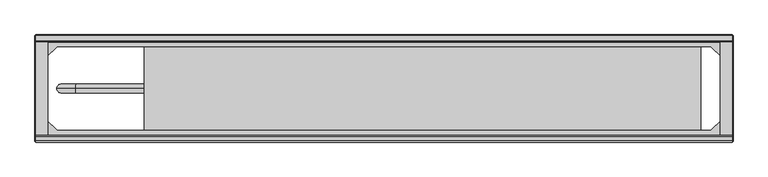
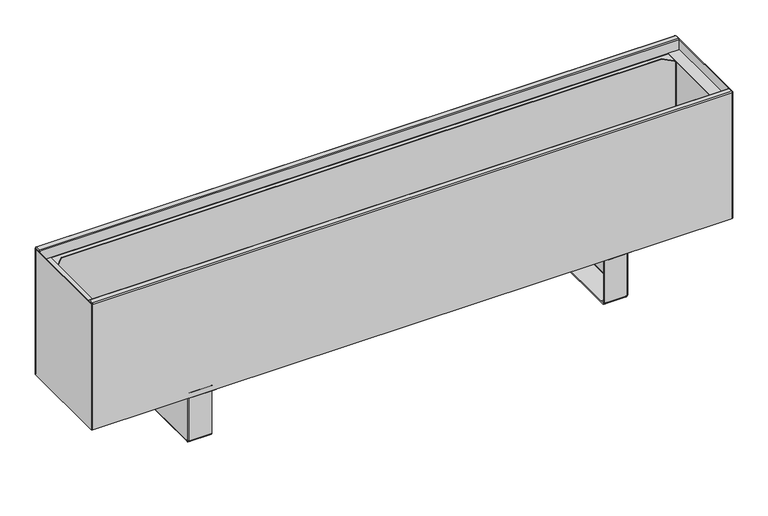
"""IFC4 building model written with IfcOpenShell, lengths in millimetres: proxy geometry, TECHNO_Конвектор напольный_Vita KPZ 185 : KPZ 185-250-2."""

from ifc_helpers import new_model, si_unit, point, frame, origin, place, context, project, spatial, polyline, circle_curve, ellipse_curve, trimmed, outline, extrude, source, transform, mapped, element, save
from ifc_brep_helpers import plane_surface, cylinder_surface, revolved_surface, advanced_brep


def mechanical_equipment_51376e17(model_context):
    return source(origin(), model_context, "Body", "SolidModel", [
        advanced_brep(
        [(409.7, -116.8, 1.5), (409.7, -114.5, 3.8), (409.7, -114.5, 4.9), (409.7, -116.0, 4.9), (409.7, -116.0, 3.8), (409.7, -116.8, 3.0), (409.7, -124.5, 3.0), (409.7, -124.5, 1.5), (409.7, -117.6, 1.5), (409.7, -114.5, 97.7), (409.7, -113.7, 98.5), (409.7, -101.0, 98.5), (409.7, -101.0, 100.0), (409.7, -113.7, 100.0), (409.7, -116.0, 97.7), (409.7, -116.0, 95.5), (409.7, -114.5, 95.5), (409.7, -270.5, 3.8), (409.7, -268.2, 1.5), (409.7, -267.4, 1.5), (409.7, -260.5, 1.5), (409.7, -260.5, 3.0), (409.7, -268.2, 3.0), (409.7, -269.0, 3.8), (409.7, -269.0, 4.9), (409.7, -270.5, 4.9), (409.7, -269.0, 97.7), (409.7, -271.3, 100.0), (409.7, -284.0, 100.0), (409.7, -284.0, 98.5), (409.7, -271.3, 98.5), (409.7, -270.5, 97.7), (409.7, -270.5, 95.5), (409.7, -269.0, 95.5), (367.0, -270.5, 97.7), (367.0, -271.3, 98.5), (367.0, -284.0, 98.5), (367.0, -284.0, 100.0), (367.0, -271.3, 100.0), (367.0, -269.0, 97.7), (367.0, -269.0, 3.8), (367.0, -268.2, 3.0), (367.0, -260.5, 3.0), (367.0, -260.5, 1.5), (367.0, -124.5, 1.5), (367.0, -124.5, 3.0), (367.0, -116.8, 3.0), (367.0, -116.0, 3.8), (367.0, -116.0, 97.7), (367.0, -113.7, 100.0), (367.0, -101.0, 100.0), (367.0, -101.0, 98.5), (367.0, -113.7, 98.5), (367.0, -114.5, 97.7), (367.0, -114.5, 3.8), (367.0, -116.8, 1.5), (367.0, -117.6, 1.5), (367.0, -117.6, 0.0), (367.0, -267.4, 0.0), (367.0, -267.4, 1.5), (367.0, -268.2, 1.5), (367.0, -270.5, 3.8), (410.5, -116.8, 95.5), (410.5, -268.2, 95.5), (412.0, -268.2, 95.5), (412.0, -116.8, 95.5), (412.0, -116.8, 4.9), (412.0, -117.6, 4.9), (410.5, -117.6, 4.9), (410.5, -116.8, 4.9), (410.5, -268.2, 4.9), (410.5, -267.4, 4.9), (412.0, -267.4, 4.9), (412.0, -268.2, 4.9), (410.5, -117.6, 2.3), (410.5, -267.4, 2.3), (411.9999999, -267.4, 2.3), (412.0, -117.6, 2.3), (409.7, -117.6, 0.0), (409.7, -267.4, 0.0)],
        [
            (0, 1, circle_curve(frame((409.7, -116.8, 3.8), z_axis=(1.0, 0.0, 0.0), x_axis=(0.0, -1.0, 0.0)), 2.3)),
            (1, 2),
            (2, 3),
            (3, 4),
            (4, 5, circle_curve(frame((409.7, -116.8, 3.8), z_axis=(-1.0, 0.0, 0.0), x_axis=(0.0, -1.0, 0.0)), 0.8)),
            (5, 6),
            (6, 7),
            (7, 8),
            (8, 0),
            (9, 10, circle_curve(frame((409.7, -113.7, 97.7), z_axis=(-1.0, 0.0, 0.0), x_axis=(0.0, -1.0, 0.0)), 0.8)),
            (10, 11),
            (11, 12),
            (12, 13),
            (13, 14, circle_curve(frame((409.7, -113.7, 97.7), z_axis=(1.0, 0.0, 0.0), x_axis=(0.0, -1.0, 0.0)), 2.3)),
            (14, 15),
            (15, 16),
            (16, 9),
            (17, 18, circle_curve(frame((409.7, -268.2, 3.8), z_axis=(1.0, 0.0, 0.0), x_axis=(0.0, -1.0, 0.0)), 2.3)),
            (18, 19),
            (19, 20),
            (20, 21),
            (21, 22),
            (22, 23, circle_curve(frame((409.7, -268.2, 3.8), z_axis=(-1.0, 0.0, 0.0), x_axis=(0.0, -1.0, 0.0)), 0.8)),
            (23, 24),
            (24, 25),
            (25, 17),
            (26, 27, circle_curve(frame((409.7, -271.3, 97.7), z_axis=(1.0, 0.0, 0.0), x_axis=(0.0, -1.0, 0.0)), 2.3)),
            (27, 28),
            (28, 29),
            (29, 30),
            (30, 31, circle_curve(frame((409.7, -271.3, 97.7), z_axis=(-1.0, 0.0, 0.0), x_axis=(0.0, -1.0, 0.0)), 0.8)),
            (31, 32),
            (32, 33),
            (33, 26),
            (34, 35, circle_curve(frame((367.0, -271.3, 97.7), z_axis=(1.0, 0.0, 0.0), x_axis=(0.0, -1.0, 0.0)), 0.8)),
            (35, 36),
            (36, 37),
            (37, 38),
            (38, 39, circle_curve(frame((367.0, -271.3, 97.7), z_axis=(-1.0, 0.0, 0.0), x_axis=(0.0, -1.0, 0.0)), 2.3)),
            (39, 40),
            (40, 41, circle_curve(frame((367.0, -268.2, 3.8), z_axis=(1.0, 0.0, 0.0), x_axis=(0.0, -1.0, 0.0)), 0.8)),
            (41, 42),
            (42, 43),
            (43, 44),
            (44, 45),
            (45, 46),
            (46, 47, circle_curve(frame((367.0, -116.8, 3.8), z_axis=(1.0, 0.0, 0.0), x_axis=(0.0, -1.0, 0.0)), 0.8)),
            (47, 48),
            (48, 49, circle_curve(frame((367.0, -113.7, 97.7), z_axis=(-1.0, 0.0, 0.0), x_axis=(0.0, -1.0, 0.0)), 2.3)),
            (49, 50),
            (50, 51),
            (51, 52),
            (52, 53, circle_curve(frame((367.0, -113.7, 97.7), z_axis=(1.0, 0.0, 0.0), x_axis=(0.0, -1.0, 0.0)), 0.8)),
            (53, 54),
            (54, 55, circle_curve(frame((367.0, -116.8, 3.8), z_axis=(-1.0, 0.0, 0.0), x_axis=(0.0, -1.0, 0.0)), 2.3)),
            (55, 56),
            (56, 57),
            (57, 58),
            (58, 59),
            (59, 60),
            (60, 61, circle_curve(frame((367.0, -268.2, 3.8), z_axis=(-1.0, 0.0, 0.0), x_axis=(0.0, -1.0, 0.0)), 2.3)),
            (61, 34),
            (30, 35),
            (34, 31),
            (29, 36),
            (28, 37),
            (27, 38),
            (26, 39),
            (33, 24),
            (23, 40),
            (22, 41),
            (5, 46),
            (45, 6),
            (4, 47),
            (3, 15),
            (14, 48),
            (13, 49),
            (12, 50),
            (11, 51),
            (10, 52),
            (9, 53),
            (16, 2),
            (1, 54),
            (0, 55),
            (8, 56),
            (17, 61),
            (60, 18),
            (25, 32),
            (21, 42),
            (20, 43),
            (59, 19),
            (44, 7),
            (15, 62, circle_curve(frame((409.7, -116.8, 95.5), z_axis=(0.0, 0.0, -1.0), x_axis=(-1.0, 0.0, 0.0)), 0.8)),
            (62, 63),
            (63, 33, circle_curve(frame((409.7, -268.2, 95.5), z_axis=(0.0, 0.0, -1.0), x_axis=(-1.0, 0.0, 0.0)), 0.8)),
            (32, 64, circle_curve(frame((409.7, -268.2, 95.5), z_axis=(0.0, 0.0, 1.0), x_axis=(-1.0, 0.0, 0.0)), 2.3)),
            (64, 65),
            (65, 16, circle_curve(frame((409.7, -116.8, 95.5), z_axis=(0.0, 0.0, 1.0), x_axis=(-1.0, 0.0, 0.0)), 2.3)),
            (2, 66, circle_curve(frame((409.7, -116.8, 4.9), z_axis=(0.0, 0.0, -1.0), x_axis=(-1.0, 0.0, 0.0)), 2.3)),
            (66, 67),
            (67, 68),
            (68, 69),
            (69, 3, circle_curve(frame((409.7, -116.8, 4.9), z_axis=(0.0, 0.0, 1.0), x_axis=(-1.0, 0.0, 0.0)), 0.8)),
            (24, 70, circle_curve(frame((409.7, -268.2, 4.9), z_axis=(0.0, 0.0, 1.0), x_axis=(-1.0, 0.0, 0.0)), 0.8)),
            (70, 71),
            (71, 72),
            (72, 73),
            (73, 25, circle_curve(frame((409.7, -268.2, 4.9), z_axis=(0.0, 0.0, -1.0), x_axis=(-1.0, 0.0, 0.0)), 2.3)),
            (69, 62),
            (68, 74),
            (74, 75),
            (75, 71),
            (70, 63),
            (64, 73),
            (72, 76),
            (76, 77),
            (77, 67),
            (66, 65),
            (8, 74, circle_curve(frame((409.7, -117.6, 2.3), z_axis=(0.0, -1.0, 0.0), x_axis=(-1.0, 0.0, 0.0)), 0.8)),
            (77, 78, circle_curve(frame((409.7, -117.6, 2.3), z_axis=(0.0, 1.0, 0.0), x_axis=(-1.0, 0.0, 0.0)), 2.3)),
            (78, 57),
            (58, 79),
            (79, 76, circle_curve(frame((409.7, -267.4, 2.3), z_axis=(0.0, -1.0, 0.0), x_axis=(-1.0, 0.0, 0.0)), 2.3)),
            (75, 19, circle_curve(frame((409.7, -267.4, 2.3), z_axis=(0.0, 1.0, 0.0), x_axis=(-1.0, 0.0, 0.0)), 0.8)),
            (20, 7),
            (79, 78),
        ],
        [
            plane_surface(frame((409.7, -272.1, 97.7), z_axis=(1.0, 0.0, 0.0), x_axis=(0.0, 0.0, 1.0))),
            plane_surface(frame((367.0, -272.1, 97.7), z_axis=(-1.0, 0.0, 0.0), x_axis=(0.0, 0.0, -1.0))),
            revolved_surface(polyline([(409.7, -272.1, 97.7), (367.0, -272.1, 97.7)]), (409.7, -271.3, 97.7), (1.0, 0.0, 0.0)),
            plane_surface(frame((367.0, -271.3, 98.5), z_axis=(0.0, 0.0, -1.0), x_axis=(1.0, 0.0, 0.0))),
            plane_surface(frame((367.0, -284.0, 98.5), z_axis=(0.0, -1.0, 0.0), x_axis=(1.0, 0.0, 0.0))),
            plane_surface(frame((367.0, -284.0, 100.0), z_axis=(0.0, 0.0, 1.0), x_axis=(1.0, 0.0, 0.0))),
            cylinder_surface(frame((409.7, -271.3, 97.7), z_axis=(-1.0, 0.0, 0.0), x_axis=(0.0, -1.0, 0.0)), 2.3),
            plane_surface(frame((367.0, -269.0, 97.7), z_axis=(0.0, 1.0, 3.692083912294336e-12), x_axis=(1.0, 0.0, 0.0))),
            revolved_surface(polyline([(409.7, -269.0, 3.8), (367.0, -269.0, 3.8)]), (409.7, -268.2, 3.8), (1.0, 0.0, 0.0)),
            plane_surface(frame((367.0, -124.5, 3.0), z_axis=(0.0, 0.0, 1.0), x_axis=(1.0, 0.0, 0.0))),
            revolved_surface(polyline([(409.7, -117.6, 3.8), (367.0, -117.6, 3.8)]), (412.0, -116.8, 3.8), (1.0, 0.0, 0.0)),
            plane_surface(frame((367.0, -116.0, 3.8), z_axis=(0.0, -1.0, 0.0), x_axis=(1.0, 0.0, 0.0))),
            cylinder_surface(frame((412.0, -113.7, 97.7), z_axis=(-1.0, 0.0, 0.0), x_axis=(0.0, -1.0, 0.0)), 2.3),
            plane_surface(frame((367.0, -113.7, 100.0), z_axis=(0.0, 0.0, 1.0), x_axis=(1.0, 0.0, 0.0))),
            plane_surface(frame((367.0, -101.0, 100.0), z_axis=(0.0, 1.0, 0.0), x_axis=(1.0, 0.0, 0.0))),
            plane_surface(frame((367.0, -101.0, 98.5), z_axis=(0.0, 0.0, -1.0), x_axis=(1.0, 0.0, 0.0))),
            revolved_surface(polyline([(409.7, -114.5, 97.7), (367.0, -114.5, 97.7)]), (412.0, -113.7, 97.7), (1.0, 0.0, 0.0)),
            plane_surface(frame((367.0, -114.5, 97.7), z_axis=(0.0, 1.0, 0.0), x_axis=(1.0, 0.0, 0.0))),
            cylinder_surface(frame((412.0, -116.8, 3.8), z_axis=(-1.0, 0.0, 0.0), x_axis=(0.0, -1.0, 0.0)), 2.3),
            plane_surface(frame((367.0, -116.8, 1.5), z_axis=(0.0, 0.0, -1.0), x_axis=(1.0, 0.0, 0.0))),
            cylinder_surface(frame((409.7, -268.2, 3.8), z_axis=(-1.0, 0.0, 0.0), x_axis=(0.0, -1.0, 0.0)), 2.3),
            plane_surface(frame((367.0, -270.5, 3.8), z_axis=(0.0, -1.0, 0.0), x_axis=(1.0, 0.0, 0.0))),
            plane_surface(frame((367.0, -268.2, 3.0), z_axis=(0.0, 0.0, 1.0), x_axis=(1.0, 0.0, 0.0))),
            plane_surface(frame((367.0, -260.5, 3.0), z_axis=(0.0, 1.0, 0.0), x_axis=(1.0, 0.0, 0.0))),
            plane_surface(frame((367.0, -260.5, 1.5), z_axis=(0.0, 0.0, -1.0), x_axis=(1.0, 0.0, 0.0))),
            plane_surface(frame((367.0, -124.5, 1.5), z_axis=(0.0, -1.0, 0.0), x_axis=(1.0, 0.0, 0.0))),
            plane_surface(frame((409.7, -116.0, 95.5), z_axis=(0.0, 0.0, 1.0), x_axis=(0.0, -1.0, 0.0))),
            plane_surface(frame((409.7, -116.0, 4.9), z_axis=(0.0, 0.0, -1.0), x_axis=(0.0, 1.0, 0.0))),
            revolved_surface(polyline([(408.9, -116.8, 4.9), (408.9, -116.8, 95.5)]), (409.7, -116.8, 4.9), (0.0, 0.0, -1.0)),
            plane_surface(frame((410.5, -116.8, 95.5), z_axis=(-1.0, 0.0, 0.0), x_axis=(0.0, 0.0, -1.0))),
            plane_surface(frame((412.0, -117.6, 95.5), z_axis=(1.0, -4.322665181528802e-10, 0.0), x_axis=(0.0, 0.0, -1.0))),
            cylinder_surface(frame((409.7, -116.8, 4.9), z_axis=(0.0, 0.0, 1.0), x_axis=(-1.0, 0.0, 0.0)), 2.3),
            cylinder_surface(frame((409.7, -268.2, 0.0), z_axis=(0.0, 0.0, 1.0), x_axis=(-1.0, 0.0, 0.0)), 2.3),
            revolved_surface(polyline([(408.9, -268.2, 4.9), (408.9, -268.2, 95.5)]), (409.7, -268.2, 0.0), (0.0, 0.0, -1.0)),
            plane_surface(frame((367.0, -117.6, 1.5), z_axis=(0.0, 1.0, 0.0), x_axis=(0.0, 0.0, 1.0))),
            plane_surface(frame((367.0, -267.4, 1.5), z_axis=(0.0, -1.0, 0.0), x_axis=(0.0, 0.0, -1.0))),
            plane_surface(frame((367.0, -117.6, 1.5), z_axis=(0.0, 0.0, 1.0), x_axis=(0.0, -1.0, 0.0))),
            revolved_surface(polyline([(408.9, -267.4, 2.3), (408.9, -117.6, 2.3)]), (409.7, -267.4, 2.3), (0.0, -1.0, 0.0)),
            cylinder_surface(frame((409.7, -267.4, 2.3), z_axis=(0.0, 1.0, 0.0), x_axis=(-1.0, 0.0, 0.0)), 2.3),
            plane_surface(frame((409.7, -117.6, 0.0), z_axis=(0.0, 0.0, -1.0), x_axis=(0.0, -1.0, 0.0))),
        ],
        [
            (0, [[1, 2, 3, 4, 5, 6, 7, 8, 9]]),
            (0, [[10, 11, 12, 13, 14, 15, 16, 17]]),
            (0, [[18, 19, 20, 21, 22, 23, 24, 25, 26]]),
            (0, [[27, 28, 29, 30, 31, 32, 33, 34]]),
            (1, [[35, 36, 37, 38, 39, 40, 41, 42, 43, 44, 45, 46, 47, 48, 49, 50, 51, 52, 53, 54, 55, 56, 57, 58, 59, 60, 61, 62]]),
            (2, [[-31, 63, -35, 64]]),
            (3, [[-30, 65, -36, -63]]),
            (4, [[-29, 66, -37, -65]]),
            (5, [[-28, 67, -38, -66]]),
            (6, [[-27, 68, -39, -67]]),
            (7, [[-40, -68, -34, 69, -24, 70]]),
            (8, [[-23, 71, -41, -70]]),
            (9, [[-6, 72, -46, 73]]),
            (10, [[-5, 74, -47, -72]]),
            (11, [[-48, -74, -4, 75, -15, 76]]),
            (12, [[-14, 77, -49, -76]]),
            (13, [[-13, 78, -50, -77]]),
            (14, [[-12, 79, -51, -78]]),
            (15, [[-11, 80, -52, -79]]),
            (16, [[-10, 81, -53, -80]]),
            (17, [[-54, -81, -17, 82, -2, 83]]),
            (18, [[-1, 84, -55, -83]]),
            (19, [[-84, -9, 85, -56]]),
            (20, [[-18, 86, -61, 87]]),
            (21, [[-62, -86, -26, 88, -32, -64]]),
            (22, [[-22, 89, -42, -71]]),
            (23, [[-21, 90, -43, -89]]),
            (24, [[-87, -60, 91, -19]]),
            (25, [[-7, -73, -45, 92]]),
            (26, [[93, 94, 95, -33, 96, 97, 98, -16]]),
            (27, [[99, 100, 101, 102, 103, -3]]),
            (27, [[104, 105, 106, 107, 108, -25]]),
            (28, [[-93, -75, -103, 109]]),
            (29, [[-94, -109, -102, 110, 111, 112, -105, 113]]),
            (30, [[-97, 114, -107, 115, 116, 117, -100, 118]]),
            (31, [[-98, -118, -99, -82]]),
            (32, [[-96, -88, -108, -114]]),
            (33, [[-95, -113, -104, -69]]),
            (34, [[-57, -85, 119, -110, -101, -117, 120, 121]]),
            (35, [[122, 123, -115, -106, -112, 124, -91, -59]]),
            (36, [[125, -92, -44, -90]]),
            (37, [[-119, -8, -125, -20, -124, -111]]),
            (38, [[-120, -116, -123, 126]]),
            (39, [[-121, -126, -122, -58]]),
        ],
    ),
        advanced_brep(
        [(-409.7, -268.2, 1.5), (-409.7, -270.5, 3.8), (-409.7, -270.5, 4.9), (-409.7, -269.0, 4.9), (-409.7, -269.0, 3.8), (-409.7, -268.2, 3.0), (-409.7, -260.5, 3.0), (-409.7, -260.5, 1.5), (-409.7, -267.4, 1.5), (-409.7, -270.5, 97.7), (-409.7, -271.3, 98.5), (-409.7, -284.0, 98.5), (-409.7, -284.0, 100.0), (-409.7, -271.3, 100.0), (-409.7, -269.0, 97.7), (-409.7, -269.0, 95.5), (-409.7, -270.5, 95.5), (-409.7, -114.5, 3.8), (-409.7, -116.8, 1.5), (-409.7, -117.6, 1.5), (-409.7, -124.5, 1.5), (-409.7, -124.5, 3.0), (-409.7, -116.8, 3.0), (-409.7, -116.0, 3.8), (-409.7, -116.0, 4.9), (-409.7, -114.5, 4.9), (-409.7, -116.0, 97.7), (-409.7, -113.7, 100.0), (-409.7, -101.0, 100.0), (-409.7, -101.0, 98.5), (-409.7, -113.7, 98.5), (-409.7, -114.5, 97.7), (-409.7, -114.5, 95.5), (-409.7, -116.0, 95.5), (-367.0, -114.5, 97.7), (-367.0, -113.7, 98.5), (-367.0, -101.0, 98.5), (-367.0, -101.0, 100.0), (-367.0, -113.7, 100.0), (-367.0, -116.0, 97.7), (-367.0, -116.0, 3.8), (-367.0, -116.8, 3.0), (-367.0, -124.5, 3.0), (-367.0, -124.5, 1.5), (-367.0, -260.5, 1.5), (-367.0, -260.5, 3.0), (-367.0, -268.2, 3.0), (-367.0, -269.0, 3.8), (-367.0, -269.0, 97.7), (-367.0, -271.3, 100.0), (-367.0, -284.0, 100.0), (-367.0, -284.0, 98.5), (-367.0, -271.3, 98.5), (-367.0, -270.5, 97.7), (-367.0, -270.5, 3.8), (-367.0, -268.2, 1.5), (-367.0, -267.4, 1.5), (-367.0, -267.4, 0.0), (-367.0, -117.6, 0.0), (-367.0, -117.6, 1.5), (-367.0, -116.8, 1.5), (-367.0, -114.5, 3.8), (-410.5, -268.2, 95.5), (-410.5, -116.8, 95.5), (-412.0, -116.8, 95.5), (-412.0, -268.2, 95.5), (-412.0, -268.2, 4.9), (-412.0, -267.4, 4.9), (-410.5, -267.4, 4.9), (-410.5, -268.2, 4.9), (-410.5, -116.8, 4.9), (-410.5, -117.6, 4.9), (-412.0, -117.6, 4.9), (-412.0, -116.8, 4.9), (-410.5, -267.4, 2.3), (-410.5, -117.6, 2.3), (-411.9999999, -117.6, 2.3), (-412.0, -267.4, 2.3), (-409.7, -267.4, 0.0), (-409.7, -117.6, 0.0)],
        [
            (0, 1, circle_curve(frame((-409.7, -268.2, 3.8), z_axis=(-1.0, 0.0, 0.0), x_axis=(0.0, 1.0, 0.0)), 2.3)),
            (1, 2),
            (2, 3),
            (3, 4),
            (4, 5, circle_curve(frame((-409.7, -268.2, 3.8), z_axis=(1.0, 0.0, 0.0), x_axis=(0.0, 1.0, 0.0)), 0.8)),
            (5, 6),
            (6, 7),
            (7, 8),
            (8, 0),
            (9, 10, circle_curve(frame((-409.7, -271.3, 97.7), z_axis=(1.0, 0.0, 0.0), x_axis=(0.0, 1.0, 0.0)), 0.8)),
            (10, 11),
            (11, 12),
            (12, 13),
            (13, 14, circle_curve(frame((-409.7, -271.3, 97.7), z_axis=(-1.0, 0.0, 0.0), x_axis=(0.0, 1.0, 0.0)), 2.3)),
            (14, 15),
            (15, 16),
            (16, 9),
            (17, 18, circle_curve(frame((-409.7, -116.8, 3.8), z_axis=(-1.0, 0.0, 0.0), x_axis=(0.0, 1.0, 0.0)), 2.3)),
            (18, 19),
            (19, 20),
            (20, 21),
            (21, 22),
            (22, 23, circle_curve(frame((-409.7, -116.8, 3.8), z_axis=(1.0, 0.0, 0.0), x_axis=(0.0, 1.0, 0.0)), 0.8)),
            (23, 24),
            (24, 25),
            (25, 17),
            (26, 27, circle_curve(frame((-409.7, -113.7, 97.7), z_axis=(-1.0, 0.0, 0.0), x_axis=(0.0, 1.0, 0.0)), 2.3)),
            (27, 28),
            (28, 29),
            (29, 30),
            (30, 31, circle_curve(frame((-409.7, -113.7, 97.7), z_axis=(1.0, 0.0, 0.0), x_axis=(0.0, 1.0, 0.0)), 0.8)),
            (31, 32),
            (32, 33),
            (33, 26),
            (34, 35, circle_curve(frame((-367.0, -113.7, 97.7), z_axis=(-1.0, 0.0, 0.0), x_axis=(0.0, 1.0, 0.0)), 0.8)),
            (35, 36),
            (36, 37),
            (37, 38),
            (38, 39, circle_curve(frame((-367.0, -113.7, 97.7), z_axis=(1.0, 0.0, 0.0), x_axis=(0.0, 1.0, 0.0)), 2.3)),
            (39, 40),
            (40, 41, circle_curve(frame((-367.0, -116.8, 3.8), z_axis=(-1.0, 0.0, 0.0), x_axis=(0.0, 1.0, 0.0)), 0.8)),
            (41, 42),
            (42, 43),
            (43, 44),
            (44, 45),
            (45, 46),
            (46, 47, circle_curve(frame((-367.0, -268.2, 3.8), z_axis=(-1.0, 0.0, 0.0), x_axis=(0.0, 1.0, 0.0)), 0.8)),
            (47, 48),
            (48, 49, circle_curve(frame((-367.0, -271.3, 97.7), z_axis=(1.0, 0.0, 0.0), x_axis=(0.0, 1.0, 0.0)), 2.3)),
            (49, 50),
            (50, 51),
            (51, 52),
            (52, 53, circle_curve(frame((-367.0, -271.3, 97.7), z_axis=(-1.0, 0.0, 0.0), x_axis=(0.0, 1.0, 0.0)), 0.8)),
            (53, 54),
            (54, 55, circle_curve(frame((-367.0, -268.2, 3.8), z_axis=(1.0, 0.0, 0.0), x_axis=(0.0, 1.0, 0.0)), 2.3)),
            (55, 56),
            (56, 57),
            (57, 58),
            (58, 59),
            (59, 60),
            (60, 61, circle_curve(frame((-367.0, -116.8, 3.8), z_axis=(1.0, 0.0, 0.0), x_axis=(0.0, 1.0, 0.0)), 2.3)),
            (61, 34),
            (30, 35),
            (34, 31),
            (29, 36),
            (28, 37),
            (27, 38),
            (26, 39),
            (33, 24),
            (23, 40),
            (22, 41),
            (5, 46),
            (45, 6),
            (4, 47),
            (3, 15),
            (14, 48),
            (13, 49),
            (12, 50),
            (11, 51),
            (10, 52),
            (9, 53),
            (16, 2),
            (1, 54),
            (0, 55),
            (8, 56),
            (17, 61),
            (60, 18),
            (25, 32),
            (21, 42),
            (20, 43),
            (59, 19),
            (44, 7),
            (15, 62, circle_curve(frame((-409.7, -268.2, 95.5), z_axis=(0.0, 0.0, -1.0), x_axis=(1.0, 0.0, 0.0)), 0.8)),
            (62, 63),
            (63, 33, circle_curve(frame((-409.7, -116.8, 95.5), z_axis=(0.0, 0.0, -1.0), x_axis=(1.0, 0.0, 0.0)), 0.8)),
            (32, 64, circle_curve(frame((-409.7, -116.8, 95.5), z_axis=(0.0, 0.0, 1.0), x_axis=(1.0, 0.0, 0.0)), 2.3)),
            (64, 65),
            (65, 16, circle_curve(frame((-409.7, -268.2, 95.5), z_axis=(0.0, 0.0, 1.0), x_axis=(1.0, 0.0, 0.0)), 2.3)),
            (2, 66, circle_curve(frame((-409.7, -268.2, 4.9), z_axis=(0.0, 0.0, -1.0), x_axis=(1.0, 0.0, 0.0)), 2.3)),
            (66, 67),
            (67, 68),
            (68, 69),
            (69, 3, circle_curve(frame((-409.7, -268.2, 4.9), z_axis=(0.0, 0.0, 1.0), x_axis=(1.0, 0.0, 0.0)), 0.8)),
            (24, 70, circle_curve(frame((-409.7, -116.8, 4.9), z_axis=(0.0, 0.0, 1.0), x_axis=(1.0, 0.0, 0.0)), 0.8)),
            (70, 71),
            (71, 72),
            (72, 73),
            (73, 25, circle_curve(frame((-409.7, -116.8, 4.9), z_axis=(0.0, 0.0, -1.0), x_axis=(1.0, 0.0, 0.0)), 2.3)),
            (69, 62),
            (68, 74),
            (74, 75),
            (75, 71),
            (70, 63),
            (64, 73),
            (72, 76),
            (76, 77),
            (77, 67),
            (66, 65),
            (8, 74, circle_curve(frame((-409.7, -267.4, 2.3), z_axis=(0.0, 1.0, 0.0), x_axis=(1.0, 0.0, 0.0)), 0.8)),
            (77, 78, circle_curve(frame((-409.7, -267.4, 2.3), z_axis=(0.0, -1.0, 0.0), x_axis=(1.0, 0.0, 0.0)), 2.3)),
            (78, 57),
            (58, 79),
            (79, 76, circle_curve(frame((-409.7, -117.6, 2.3), z_axis=(0.0, 1.0, 0.0), x_axis=(1.0, 0.0, 0.0)), 2.3)),
            (75, 19, circle_curve(frame((-409.7, -117.6, 2.3), z_axis=(0.0, -1.0, 0.0), x_axis=(1.0, 0.0, 0.0)), 0.8)),
            (20, 7),
            (79, 78),
        ],
        [
            plane_surface(frame((-409.7, -112.9, 97.7), z_axis=(-1.0, 0.0, 0.0), x_axis=(0.0, 0.0, 1.0))),
            plane_surface(frame((-367.0, -112.9, 97.7), z_axis=(1.0, 0.0, 0.0), x_axis=(0.0, 0.0, -1.0))),
            revolved_surface(polyline([(-409.7, -112.9, 97.7), (-367.0, -112.9, 97.7)]), (-409.7, -113.7, 97.7), (-1.0, 0.0, 0.0)),
            plane_surface(frame((-367.0, -113.7, 98.5), z_axis=(0.0, 0.0, -1.0), x_axis=(-1.0, 0.0, 0.0))),
            plane_surface(frame((-367.0, -101.0, 98.5), z_axis=(0.0, 1.0, 0.0), x_axis=(-1.0, 0.0, 0.0))),
            plane_surface(frame((-367.0, -101.0, 100.0), z_axis=(0.0, 0.0, 1.0), x_axis=(-1.0, 0.0, 0.0))),
            cylinder_surface(frame((-409.7, -113.7, 97.7), z_axis=(1.0, 0.0, 0.0), x_axis=(0.0, 1.0, 0.0)), 2.3),
            plane_surface(frame((-367.0, -116.0, 97.7), z_axis=(0.0, -1.0, 3.692083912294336e-12), x_axis=(-1.0, 0.0, 0.0))),
            revolved_surface(polyline([(-409.7, -116.0, 3.8), (-367.0, -116.0, 3.8)]), (-409.7, -116.8, 3.8), (-1.0, 0.0, 0.0)),
            plane_surface(frame((-367.0, -260.5, 3.0), z_axis=(0.0, 0.0, 1.0), x_axis=(-1.0, 0.0, 0.0))),
            revolved_surface(polyline([(-409.7, -267.4, 3.8), (-367.0, -267.4, 3.8)]), (-412.0, -268.2, 3.8), (-1.0, 0.0, 0.0)),
            plane_surface(frame((-367.0, -269.0, 3.8), z_axis=(0.0, 1.0, 0.0), x_axis=(-1.0, 0.0, 0.0))),
            cylinder_surface(frame((-412.0, -271.3, 97.7), z_axis=(1.0, 0.0, 0.0), x_axis=(0.0, 1.0, 0.0)), 2.3),
            plane_surface(frame((-367.0, -271.3, 100.0), z_axis=(0.0, 0.0, 1.0), x_axis=(-1.0, 0.0, 0.0))),
            plane_surface(frame((-367.0, -284.0, 100.0), z_axis=(0.0, -1.0, 0.0), x_axis=(-1.0, 0.0, 0.0))),
            plane_surface(frame((-367.0, -284.0, 98.5), z_axis=(0.0, 0.0, -1.0), x_axis=(-1.0, 0.0, 0.0))),
            revolved_surface(polyline([(-409.7, -270.5, 97.7), (-367.0, -270.5, 97.7)]), (-412.0, -271.3, 97.7), (-1.0, 0.0, 0.0)),
            plane_surface(frame((-367.0, -270.5, 97.7), z_axis=(0.0, -1.0, 0.0), x_axis=(-1.0, 0.0, 0.0))),
            cylinder_surface(frame((-412.0, -268.2, 3.8), z_axis=(1.0, 0.0, 0.0), x_axis=(0.0, 1.0, 0.0)), 2.3),
            plane_surface(frame((-367.0, -268.2, 1.5), z_axis=(0.0, 0.0, -1.0), x_axis=(-1.0, 0.0, 0.0))),
            cylinder_surface(frame((-409.7, -116.8, 3.8), z_axis=(1.0, 0.0, 0.0), x_axis=(0.0, 1.0, 0.0)), 2.3),
            plane_surface(frame((-367.0, -114.5, 3.8), z_axis=(0.0, 1.0, 0.0), x_axis=(-1.0, 0.0, 0.0))),
            plane_surface(frame((-367.0, -116.8, 3.0), z_axis=(0.0, 0.0, 1.0), x_axis=(-1.0, 0.0, 0.0))),
            plane_surface(frame((-367.0, -124.5, 3.0), z_axis=(0.0, -1.0, 0.0), x_axis=(-1.0, 0.0, 0.0))),
            plane_surface(frame((-367.0, -124.5, 1.5), z_axis=(0.0, 0.0, -1.0), x_axis=(-1.0, 0.0, 0.0))),
            plane_surface(frame((-367.0, -260.5, 1.5), z_axis=(0.0, 1.0, 0.0), x_axis=(-1.0, 0.0, 0.0))),
            plane_surface(frame((-409.7, -269.0, 95.5), z_axis=(0.0, 0.0, 1.0), x_axis=(0.0, 1.0, 0.0))),
            plane_surface(frame((-409.7, -269.0, 4.9), z_axis=(0.0, 0.0, -1.0), x_axis=(0.0, -1.0, 0.0))),
            revolved_surface(polyline([(-408.9, -268.2, 4.9), (-408.9, -268.2, 95.5)]), (-409.7, -268.2, 4.9), (0.0, 0.0, -1.0)),
            plane_surface(frame((-410.5, -268.2, 95.5), z_axis=(1.0, 0.0, 0.0), x_axis=(0.0, 0.0, -1.0))),
            plane_surface(frame((-412.0, -267.4, 95.5), z_axis=(-1.0, 4.3226335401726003e-10, 0.0), x_axis=(0.0, 0.0, -1.0))),
            cylinder_surface(frame((-409.7, -268.2, 4.9), z_axis=(0.0, 0.0, 1.0), x_axis=(1.0, 0.0, 0.0)), 2.3),
            cylinder_surface(frame((-409.7, -116.8, 0.0), z_axis=(0.0, 0.0, 1.0), x_axis=(1.0, 0.0, 0.0)), 2.3),
            revolved_surface(polyline([(-408.9, -116.8, 4.9), (-408.9, -116.8, 95.5)]), (-409.7, -116.8, 0.0), (0.0, 0.0, -1.0)),
            plane_surface(frame((-367.0, -267.4, 1.5), z_axis=(0.0, -1.0, 0.0), x_axis=(0.0, 0.0, 1.0))),
            plane_surface(frame((-367.0, -117.6, 1.5), z_axis=(0.0, 1.0, 0.0), x_axis=(0.0, 0.0, -1.0))),
            plane_surface(frame((-367.0, -267.4, 1.5), z_axis=(0.0, 0.0, 1.0), x_axis=(0.0, 1.0, 0.0))),
            revolved_surface(polyline([(-408.9, -117.6, 2.3), (-408.9, -267.4, 2.3)]), (-409.7, -117.6, 2.3), (0.0, 1.0, 0.0)),
            cylinder_surface(frame((-409.7, -117.6, 2.3), z_axis=(0.0, -1.0, 0.0), x_axis=(1.0, 0.0, 0.0)), 2.3),
            plane_surface(frame((-409.7, -267.4, 0.0), z_axis=(0.0, 0.0, -1.0), x_axis=(0.0, 1.0, 0.0))),
        ],
        [
            (0, [[1, 2, 3, 4, 5, 6, 7, 8, 9]]),
            (0, [[10, 11, 12, 13, 14, 15, 16, 17]]),
            (0, [[18, 19, 20, 21, 22, 23, 24, 25, 26]]),
            (0, [[27, 28, 29, 30, 31, 32, 33, 34]]),
            (1, [[35, 36, 37, 38, 39, 40, 41, 42, 43, 44, 45, 46, 47, 48, 49, 50, 51, 52, 53, 54, 55, 56, 57, 58, 59, 60, 61, 62]]),
            (2, [[-31, 63, -35, 64]]),
            (3, [[-30, 65, -36, -63]]),
            (4, [[-29, 66, -37, -65]]),
            (5, [[-28, 67, -38, -66]]),
            (6, [[-27, 68, -39, -67]]),
            (7, [[-40, -68, -34, 69, -24, 70]]),
            (8, [[-23, 71, -41, -70]]),
            (9, [[-6, 72, -46, 73]]),
            (10, [[-5, 74, -47, -72]]),
            (11, [[-48, -74, -4, 75, -15, 76]]),
            (12, [[-14, 77, -49, -76]]),
            (13, [[-13, 78, -50, -77]]),
            (14, [[-12, 79, -51, -78]]),
            (15, [[-11, 80, -52, -79]]),
            (16, [[-10, 81, -53, -80]]),
            (17, [[-54, -81, -17, 82, -2, 83]]),
            (18, [[-1, 84, -55, -83]]),
            (19, [[-84, -9, 85, -56]]),
            (20, [[-18, 86, -61, 87]]),
            (21, [[-62, -86, -26, 88, -32, -64]]),
            (22, [[-22, 89, -42, -71]]),
            (23, [[-21, 90, -43, -89]]),
            (24, [[-87, -60, 91, -19]]),
            (25, [[-7, -73, -45, 92]]),
            (26, [[93, 94, 95, -33, 96, 97, 98, -16]]),
            (27, [[99, 100, 101, 102, 103, -3]]),
            (27, [[104, 105, 106, 107, 108, -25]]),
            (28, [[-93, -75, -103, 109]]),
            (29, [[-94, -109, -102, 110, 111, 112, -105, 113]]),
            (30, [[-97, 114, -107, 115, 116, 117, -100, 118]]),
            (31, [[-98, -118, -99, -82]]),
            (32, [[-96, -88, -108, -114]]),
            (33, [[-95, -113, -104, -69]]),
            (34, [[-57, -85, 119, -110, -101, -117, 120, 121]]),
            (35, [[122, 123, -115, -106, -112, 124, -91, -59]]),
            (36, [[125, -92, -44, -90]]),
            (37, [[-119, -8, -125, -20, -124, -111]]),
            (38, [[-120, -116, -123, 126]]),
            (39, [[-121, -126, -122, -58]]),
        ],
    ),
        advanced_brep(
        [(-412.0, -192.5, 186.5), (-412.0, -192.5, 171.5), (-530.0, -192.5, 186.5), (-530.0, -192.5, 171.5), (-547.5, -192.5, 154.0), (-562.5, -192.5, 154.0), (-562.5, -192.5, 100.0), (-547.5, -192.5, 100.0)],
        [
            (0, 1, circle_curve(frame((-412.0, -192.5, 179.0), z_axis=(1.0, 0.0, 0.0), x_axis=(0.0, 0.0, -1.0)), 7.5)),
            (1, 0, circle_curve(frame((-412.0, -192.5, 179.0), z_axis=(1.0, 0.0, 0.0), x_axis=(0.0, 0.0, -1.0)), 7.5)),
            (0, 2),
            (2, 3, circle_curve(frame((-530.0, -192.5, 179.0), z_axis=(1.0, 0.0, 0.0), x_axis=(0.0, 0.0, -1.0)), 7.5)),
            (3, 1),
            (3, 2, circle_curve(frame((-530.0, -192.5, 179.0), z_axis=(1.0, 0.0, 0.0), x_axis=(0.0, 0.0, -1.0)), 7.5)),
            (4, 3, circle_curve(frame((-530.0, -192.5, 154.0), z_axis=(0.0, 1.0, 0.0), x_axis=(0.0, 0.0, 1.0)), 17.5)),
            (2, 5, circle_curve(frame((-530.0, -192.5, 154.0), z_axis=(0.0, -1.0, 0.0), x_axis=(0.0, 0.0, 1.0)), 32.5)),
            (5, 4, circle_curve(frame((-555.0, -192.5, 154.0), z_axis=(0.0, 0.0, 1.0), x_axis=(1.0, 0.0, 0.0)), 7.5)),
            (4, 5, circle_curve(frame((-555.0, -192.5, 154.0), z_axis=(0.0, 0.0, 1.0), x_axis=(1.0, 0.0, 0.0)), 7.5)),
            (6, 7, circle_curve(frame((-555.0, -192.5, 100.0), z_axis=(0.0, 0.0, -1.0), x_axis=(1.0, 0.0, 0.0)), 7.5)),
            (7, 6, circle_curve(frame((-555.0, -192.5, 100.0), z_axis=(0.0, 0.0, -1.0), x_axis=(1.0, 0.0, 0.0)), 7.5)),
            (5, 6),
            (7, 4),
        ],
        [
            plane_surface(frame((-412.0, -192.5, 179.0), z_axis=(1.0, 0.0, 0.0), x_axis=(0.0, -1.0, 0.0))),
            cylinder_surface(frame((-412.0, -192.5, 179.0), z_axis=(1.0, 0.0, 0.0), x_axis=(0.0, 0.0, -1.0)), 7.5),
            revolved_surface(trimmed(ellipse_curve(frame((-530.0, -192.5, 179.0), z_axis=(1.0, 0.0, 0.0), x_axis=(0.0, 0.0, -1.0)), 7.5, 7.5), [point((-530.0, -192.5, 186.5))], [point((-530.0, -192.5, 171.5))], True, "CARTESIAN"), (-530.0, -192.5, 154.0), (0.0, -1.0, 0.0)),
            revolved_surface(trimmed(ellipse_curve(frame((-530.0, -192.5, 179.0), z_axis=(1.0, 0.0, 0.0), x_axis=(0.0, 0.0, -1.0)), 7.5, 7.5), [point((-530.0, -192.5, 171.5))], [point((-530.0, -192.5, 186.5))], True, "CARTESIAN"), (-530.0, -192.5, 154.0), (0.0, -1.0, 0.0)),
            plane_surface(frame((-555.0, -192.5, 100.0), z_axis=(0.0, 0.0, -1.0), x_axis=(0.0, -1.0, 0.0))),
            cylinder_surface(frame((-555.0, -192.5, 154.0), z_axis=(0.0, 0.0, 1.0), x_axis=(1.0, 0.0, 0.0)), 7.5),
        ],
        [
            (0, [[1, 2]]),
            (1, [[-1, 3, 4, 5]]),
            (1, [[-2, -5, 6, -3]]),
            (2, [[7, -4, 8, 9]]),
            (3, [[-8, -6, -7, 10]]),
            (4, [[11, 12]]),
            (5, [[-9, 13, -12, 14]]),
            (5, [[-10, -14, -11, -13]]),
        ],
    ),
        advanced_brep(
        [(-412.0, -192.5, 136.5), (-412.0, -192.5, 121.5), (-512.5, -192.5, 136.5), (-497.5, -192.5, 121.5), (-512.5, -192.5, 100.0), (-497.5, -192.5, 100.0)],
        [
            (0, 1, circle_curve(frame((-412.0, -192.5, 129.0), z_axis=(1.0, 0.0, 0.0), x_axis=(0.0, 0.0, -1.0)), 7.5)),
            (1, 0, circle_curve(frame((-412.0, -192.5, 129.0), z_axis=(1.0, 0.0, 0.0), x_axis=(0.0, 0.0, -1.0)), 7.5)),
            (0, 2),
            (2, 3, ellipse_curve(frame((-505.0, -192.5, 129.0), z_axis=(0.7071067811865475, 0.0, 0.7071067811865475), x_axis=(0.7071067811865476, 0.0, -0.7071067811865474)), 10.6066017, 7.5)),
            (3, 1),
            (3, 2, ellipse_curve(frame((-505.0, -192.5, 129.0), z_axis=(0.7071067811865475, 0.0, 0.7071067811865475), x_axis=(0.7071067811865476, 0.0, -0.7071067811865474)), 10.6066017, 7.5)),
            (4, 5, circle_curve(frame((-505.0, -192.5, 100.0), z_axis=(0.0, 0.0, -1.0), x_axis=(1.0, 0.0, 0.0)), 7.5)),
            (5, 4, circle_curve(frame((-505.0, -192.5, 100.0), z_axis=(0.0, 0.0, -1.0), x_axis=(1.0, 0.0, 0.0)), 7.5)),
            (2, 4),
            (5, 3),
        ],
        [
            plane_surface(frame((-412.0, -192.5, 129.0), z_axis=(1.0, 0.0, 0.0), x_axis=(0.0, -1.0, 0.0))),
            cylinder_surface(frame((-412.0, -192.5, 129.0), z_axis=(1.0, 0.0, 0.0), x_axis=(0.0, 0.0, -1.0)), 7.5),
            plane_surface(frame((-505.0, -192.5, 100.0), z_axis=(0.0, 0.0, -1.0), x_axis=(0.0, -1.0, 0.0))),
            cylinder_surface(frame((-505.0, -192.5, 129.0), z_axis=(0.0, 0.0, 1.0), x_axis=(1.0, 0.0, 0.0)), 7.5),
        ],
        [
            (0, [[1, 2]]),
            (1, [[-1, 3, 4, 5]]),
            (1, [[-2, -5, 6, -3]]),
            (2, [[7, 8]]),
            (3, [[-4, 9, -8, 10]]),
            (3, [[-6, -10, -7, -9]]),
        ],
    ),
        extrude(outline(polyline([(544.75, -117.5), (544.75, -267.5), (-412.0, -267.5), (-412.0, -117.5), (544.75, -117.5)])), frame((0.0, 0.0, 103.87), z_axis=(0.0, 0.0, 1.0), x_axis=(1.0, 0.0, 0.0)), (0.0, 0.0, 1.0), 100.0),
        extrude(outline(polyline([(-585.5004, -102.0), (-585.5004, -283.0), (-599.0, -283.0), (-599.0, -102.0), (-585.5004, -102.0)])), frame((0.0, 0.0, 101.83), z_axis=(0.0, 0.0, 1.0), x_axis=(1.0, 0.0, 0.0)), (0.0, 0.0, 1.0), 1.0002),
        extrude(outline(polyline([(585.5004, -102.0), (599.0, -102.0), (599.0, -283.0), (585.5004, -283.0), (585.5004, -102.0)])), frame((0.0, 0.0, 101.83), z_axis=(0.0, 0.0, 1.0), x_axis=(1.0, 0.0, 0.0)), (0.0, 0.0, 1.0), 1.0002),
        extrude(outline(polyline([(-599.0, -272.2), (-599.0, -112.8), (-578.0, -112.8), (-578.0, -272.2), (-599.0, -272.2)])), frame((0.0, 0.0, 328.83), z_axis=(0.0, 0.0, 1.0), x_axis=(1.0, 0.0, 0.0)), (0.0, 0.0, 1.0), 1.0002),
        extrude(outline(polyline([(599.0, -272.2), (578.0, -272.2), (578.0, -112.8), (599.0, -112.8), (599.0, -272.2)])), frame((0.0, 0.0, 328.83), z_axis=(0.0, 0.0, 1.0), x_axis=(1.0, 0.0, 0.0)), (0.0, 0.0, 1.0), 1.0002),
        advanced_brep(
        [(-598.2, -101.8, 350.83), (-598.2, -100.0, 349.03), (-598.2, -101.0, 349.03), (-598.2, -101.0, 327.83), (-598.2, -138.5, 327.83), (-598.2, -138.5, 328.83), (-598.2, -112.8, 328.83), (-598.2, -112.0, 329.63), (-598.2, -112.0, 349.03), (-598.2, -110.2, 350.83), (-598.2, -283.2, 350.83), (-598.2, -274.8, 350.83), (-598.2, -273.0, 349.03), (-598.2, -273.0, 329.63), (-598.2, -272.2, 328.83), (-598.2, -246.5, 328.83), (-598.2, -246.5, 327.83), (-598.2, -284.0, 327.83), (-598.2, -284.0, 349.03), (-598.2, -285.0, 349.03), (598.2, -101.8, 350.83), (598.2, -110.2, 350.83), (598.2, -112.0, 349.03), (598.2, -112.0, 329.63), (598.2, -112.8, 328.83), (598.2, -138.5, 328.83), (598.2, -138.5, 327.83), (598.2, -101.0, 327.83), (598.2, -101.0, 349.03), (598.2, -100.0, 349.03), (598.2, -283.2, 350.83), (598.2, -285.0, 349.03), (598.2, -284.0, 349.03), (598.2, -284.0, 327.83), (598.2, -246.5, 327.83), (598.2, -246.5, 328.83), (598.2, -272.2, 328.83), (598.2, -273.0, 329.63), (598.2, -273.0, 349.03), (598.2, -274.8, 350.83), (-580.3, -138.5, 328.83), (-561.8, -120.0, 328.83), (561.8, -120.0, 328.83), (580.3, -138.5, 328.83), (-580.3, -138.5, 327.83), (580.3, -138.5, 327.83), (561.8, -120.0, 327.83), (-561.8, -120.0, 327.83), (598.2, -100.0, 100.0), (-598.2, -100.0, 100.0), (-598.2, -285.0, 100.0), (598.2, -285.0, 100.0), (580.3, -246.5, 327.83), (-580.3, -246.5, 327.83), (-561.8, -265.0, 327.83), (561.8, -265.0, 327.83), (-580.3, -246.5, 328.83), (580.3, -246.5, 328.83), (561.8, -265.0, 328.83), (-561.8, -265.0, 328.83), (-600.0, -101.8, 349.03), (-600.0, -283.2, 349.03), (-599.0, -283.2, 349.03), (-599.0, -101.8, 349.03), (600.0, -283.2, 349.03), (600.0, -101.8, 349.03), (599.0, -101.8, 349.03), (599.0, -283.2, 349.03), (600.0, -101.8, 100.0), (600.0, -283.2, 100.0), (-600.0, -283.2, 100.0), (-600.0, -101.8, 100.0), (599.0, -101.8, 100.0), (598.2, -101.0, 100.0), (598.2, -113.0, 100.0), (-598.2, -113.0, 100.0), (-598.2, -101.0, 100.0), (-599.0, -101.8, 100.0), (-599.0, -283.2, 100.0), (-598.2, -284.0, 100.0), (-598.2, -272.0, 100.0), (598.2, -272.0, 100.0), (598.2, -284.0, 100.0), (599.0, -283.2, 100.0), (-598.2, -101.0, 100.83), (598.2, -101.0, 100.83), (598.2, -284.0, 100.83), (-598.2, -284.0, 100.83), (-598.2, -113.0, 100.83), (598.2, -113.0, 100.83), (598.2, -272.0, 100.83), (-598.2, -272.0, 100.83)],
        [
            (0, 1, circle_curve(frame((-598.2, -101.8, 349.03), z_axis=(-1.0, 0.0, 0.0), x_axis=(0.0, 1.0, 0.0)), 1.8)),
            (1, 2),
            (2, 3),
            (3, 4),
            (4, 5),
            (5, 6),
            (6, 7, circle_curve(frame((-598.2, -112.8, 329.63), z_axis=(1.0, 0.0, 0.0), x_axis=(0.0, 1.0, 0.0)), 0.8)),
            (7, 8),
            (8, 9, circle_curve(frame((-598.2, -110.2, 349.03), z_axis=(-1.0, 0.0, 0.0), x_axis=(0.0, 1.0, 0.0)), 1.8)),
            (9, 0),
            (10, 11),
            (11, 12, circle_curve(frame((-598.2, -274.8, 349.03), z_axis=(-1.0, 0.0, 0.0), x_axis=(0.0, 1.0, 0.0)), 1.8)),
            (12, 13),
            (13, 14, circle_curve(frame((-598.2, -272.2, 329.63), z_axis=(1.0, 0.0, 0.0), x_axis=(0.0, 1.0, 0.0)), 0.8)),
            (14, 15),
            (15, 16),
            (16, 17),
            (17, 18),
            (18, 19),
            (19, 10, circle_curve(frame((-598.2, -283.2, 349.03), z_axis=(-1.0, 0.0, 0.0), x_axis=(0.0, 1.0, 0.0)), 1.8)),
            (20, 21),
            (21, 22, circle_curve(frame((598.2, -110.2, 349.03), z_axis=(1.0, 0.0, 0.0), x_axis=(0.0, 1.0, 0.0)), 1.8)),
            (22, 23),
            (23, 24, circle_curve(frame((598.2, -112.8, 329.63), z_axis=(-1.0, 0.0, 0.0), x_axis=(0.0, 1.0, 0.0)), 0.8)),
            (24, 25),
            (25, 26),
            (26, 27),
            (27, 28),
            (28, 29),
            (29, 20, circle_curve(frame((598.2, -101.8, 349.03), z_axis=(1.0, 0.0, 0.0), x_axis=(0.0, 1.0, 0.0)), 1.8)),
            (30, 31, circle_curve(frame((598.2, -283.2, 349.03), z_axis=(1.0, 0.0, 0.0), x_axis=(0.0, 1.0, 0.0)), 1.8)),
            (31, 32),
            (32, 33),
            (33, 34),
            (34, 35),
            (35, 36),
            (36, 37, circle_curve(frame((598.2, -272.2, 329.63), z_axis=(-1.0, 0.0, 0.0), x_axis=(0.0, 1.0, 0.0)), 0.8)),
            (37, 38),
            (38, 39, circle_curve(frame((598.2, -274.8, 349.03), z_axis=(1.0, 0.0, 0.0), x_axis=(0.0, 1.0, 0.0)), 1.8)),
            (39, 30),
            (9, 21),
            (20, 0),
            (8, 22),
            (7, 23),
            (6, 24),
            (5, 40),
            (40, 41),
            (41, 42),
            (42, 43),
            (43, 25),
            (4, 44),
            (44, 40),
            (43, 45),
            (45, 26),
            (45, 46),
            (46, 47),
            (47, 44),
            (3, 27),
            (1, 29),
            (29, 48),
            (48, 49),
            (49, 1),
            (19, 31),
            (30, 10),
            (19, 50),
            (50, 51),
            (51, 31),
            (52, 34),
            (33, 17),
            (16, 53),
            (53, 54),
            (54, 55),
            (55, 52),
            (15, 56),
            (56, 53),
            (52, 57),
            (57, 35),
            (14, 36),
            (57, 58),
            (58, 59),
            (59, 56),
            (13, 37),
            (12, 38),
            (11, 39),
            (42, 46),
            (41, 47),
            (58, 55),
            (54, 59),
            (1, 60, circle_curve(frame((-598.2, -101.8, 349.03), z_axis=(0.0, 0.0, 1.0), x_axis=(1.0, 0.0, 0.0)), 1.8)),
            (60, 61),
            (61, 19, circle_curve(frame((-598.2, -283.2, 349.03), z_axis=(0.0, 0.0, 1.0), x_axis=(1.0, 0.0, 0.0)), 1.8)),
            (18, 62, circle_curve(frame((-598.2, -283.2, 349.03), z_axis=(0.0, 0.0, -1.0), x_axis=(1.0, 0.0, 0.0)), 0.8)),
            (62, 63),
            (63, 2, circle_curve(frame((-598.2, -101.8, 349.03), z_axis=(0.0, 0.0, -1.0), x_axis=(1.0, 0.0, 0.0)), 0.8)),
            (31, 64, circle_curve(frame((598.2, -283.2, 349.03), z_axis=(0.0, 0.0, 1.0), x_axis=(1.0, 0.0, 0.0)), 1.8)),
            (64, 65),
            (65, 29, circle_curve(frame((598.2, -101.8, 349.03), z_axis=(0.0, 0.0, 1.0), x_axis=(1.0, 0.0, 0.0)), 1.8)),
            (28, 66, circle_curve(frame((598.2, -101.8, 349.03), z_axis=(0.0, 0.0, -1.0), x_axis=(1.0, 0.0, 0.0)), 0.8)),
            (66, 67),
            (67, 32, circle_curve(frame((598.2, -283.2, 349.03), z_axis=(0.0, 0.0, -1.0), x_axis=(1.0, 0.0, 0.0)), 0.8)),
            (48, 68, circle_curve(frame((598.2, -101.8, 100.0), z_axis=(0.0, 0.0, -1.0), x_axis=(1.0, 0.0, 0.0)), 1.8)),
            (68, 69),
            (69, 51, circle_curve(frame((598.2, -283.2, 100.0), z_axis=(0.0, 0.0, -1.0), x_axis=(1.0, 0.0, 0.0)), 1.8)),
            (50, 70, circle_curve(frame((-598.2, -283.2, 100.0), z_axis=(0.0, 0.0, -1.0), x_axis=(1.0, 0.0, 0.0)), 1.8)),
            (70, 71),
            (71, 49, circle_curve(frame((-598.2, -101.8, 100.0), z_axis=(0.0, 0.0, -1.0), x_axis=(1.0, 0.0, 0.0)), 1.8)),
            (72, 73, circle_curve(frame((598.2, -101.8, 100.0), z_axis=(0.0, 0.0, 1.0), x_axis=(1.0, 0.0, 0.0)), 0.8)),
            (73, 74),
            (74, 75),
            (75, 76),
            (76, 77, circle_curve(frame((-598.2, -101.8, 100.0), z_axis=(0.0, 0.0, 1.0), x_axis=(1.0, 0.0, 0.0)), 0.8)),
            (77, 78),
            (78, 79, circle_curve(frame((-598.2, -283.2, 100.0), z_axis=(0.0, 0.0, 1.0), x_axis=(1.0, 0.0, 0.0)), 0.8)),
            (79, 80),
            (80, 81),
            (81, 82),
            (82, 83, circle_curve(frame((598.2, -283.2, 100.0), z_axis=(0.0, 0.0, 1.0), x_axis=(1.0, 0.0, 0.0)), 0.8)),
            (83, 72),
            (71, 60),
            (63, 77),
            (76, 84),
            (84, 3),
            (84, 85),
            (85, 27),
            (85, 73),
            (72, 66),
            (83, 67),
            (64, 69),
            (68, 65),
            (82, 86),
            (86, 33),
            (86, 87),
            (87, 17),
            (87, 79),
            (78, 62),
            (70, 61),
            (88, 89),
            (89, 85),
            (84, 88),
            (90, 91),
            (91, 87),
            (86, 90),
            (74, 89),
            (88, 75),
            (80, 91),
            (90, 81),
        ],
        [
            plane_surface(frame((-598.2, -110.2, 350.83), z_axis=(-1.0, 0.0, 0.0), x_axis=(0.0, 1.0, 0.0))),
            plane_surface(frame((598.2, -110.2, 350.83), z_axis=(1.0, 0.0, 0.0), x_axis=(0.0, -1.0, 0.0))),
            plane_surface(frame((598.2, -101.8, 350.83), z_axis=(0.0, 0.0, 1.0), x_axis=(-1.0, 0.0, 0.0))),
            cylinder_surface(frame((-598.2, -110.2, 349.03), z_axis=(1.0, 0.0, 0.0), x_axis=(0.0, 1.0, 0.0)), 1.8),
            plane_surface(frame((598.2, -112.0, 349.03), z_axis=(0.0, -1.0, 0.0), x_axis=(-1.0, 0.0, 0.0))),
            revolved_surface(polyline([(-598.2, -112.0, 329.63), (598.2, -112.0, 329.63)]), (-598.2, -112.8, 329.63), (-1.0, 0.0, 0.0)),
            plane_surface(frame((598.2, -112.8, 328.83), z_axis=(0.0, 0.0, 1.0), x_axis=(-1.0, 0.0, 0.0))),
            plane_surface(frame((598.2, -138.5, 328.83), z_axis=(0.0, -1.0, 0.0), x_axis=(-1.0, 0.0, 0.0))),
            plane_surface(frame((598.2, -138.5, 327.83), z_axis=(0.0, 0.0, -1.0), x_axis=(-1.0, 0.0, 0.0))),
            plane_surface(frame((598.2, -100.0, 327.83), z_axis=(0.0, 1.0, 0.0), x_axis=(-1.0, 0.0, 0.0))),
            cylinder_surface(frame((-598.2, -101.8, 349.03), z_axis=(1.0, 0.0, 0.0), x_axis=(0.0, 1.0, 0.0)), 1.8),
            cylinder_surface(frame((0.0, -283.2, 349.03), z_axis=(1.0, 0.0, 0.0), x_axis=(0.0, 1.0, 0.0)), 1.8),
            plane_surface(frame((598.2, -285.0, 349.03), z_axis=(0.0, -1.0, 0.0), x_axis=(-1.0, 0.0, 0.0))),
            plane_surface(frame((598.2, -285.0, 327.83), z_axis=(0.0, 0.0, -1.0), x_axis=(-1.0, 0.0, 0.0))),
            plane_surface(frame((598.2, -246.5, 327.83), z_axis=(0.0, 1.0, 0.0), x_axis=(-1.0, 0.0, 0.0))),
            plane_surface(frame((598.2, -246.5, 328.83), z_axis=(0.0, 0.0, 1.0), x_axis=(-1.0, 0.0, 0.0))),
            revolved_surface(polyline([(-598.2, -271.4, 329.63), (598.2, -271.4, 329.63)]), (0.0, -272.2, 329.63), (-1.0, 0.0, 0.0)),
            plane_surface(frame((598.2, -273.0, 329.63), z_axis=(0.0, 1.0, 0.0), x_axis=(-1.0, 0.0, 0.0))),
            cylinder_surface(frame((0.0, -274.8, 349.03), z_axis=(1.0, 0.0, 0.0), x_axis=(0.0, 1.0, 0.0)), 1.8),
            plane_surface(frame((598.2, -274.8, 350.83), z_axis=(0.0, 0.0, 1.0), x_axis=(-1.0, 0.0, 0.0))),
            plane_surface(frame((580.3, -138.5, 328.83), z_axis=(-0.7071067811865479, -0.7071067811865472, 0.0), x_axis=(0.0, 0.0, -1.0))),
            plane_surface(frame((561.8, -120.0, 328.83), z_axis=(0.0, -1.0, 0.0), x_axis=(0.0, 0.0, -1.0))),
            plane_surface(frame((-561.8, -120.0, 328.83), z_axis=(0.7071067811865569, -0.7071067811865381, 0.0), x_axis=(0.0, 0.0, -1.0))),
            plane_surface(frame((-561.8, -265.0, 328.83), z_axis=(0.0, 1.0, 0.0), x_axis=(0.0, 0.0, -1.0))),
            plane_surface(frame((561.8, -265.0, 328.83), z_axis=(-0.7071067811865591, 0.7071067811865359, 0.0), x_axis=(0.0, 0.0, -1.0))),
            plane_surface(frame((-580.3, -246.5, 328.83), z_axis=(0.7071067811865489, 0.7071067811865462, 0.0), x_axis=(0.0, 0.0, -1.0))),
            plane_surface(frame((-598.2, -100.0, 349.03), z_axis=(0.0, 0.0, 1.0), x_axis=(-1.0, 0.0, 0.0))),
            plane_surface(frame((-598.2, -100.0, 100.0), z_axis=(0.0, 0.0, -1.0), x_axis=(1.0, 0.0, 0.0))),
            cylinder_surface(frame((-598.2, -101.8, 100.0), z_axis=(0.0, 0.0, 1.0), x_axis=(1.0, 0.0, 0.0)), 1.8),
            revolved_surface(polyline([(-597.4000000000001, -101.8, 100.0), (-597.4000000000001, -101.8, 349.03)]), (-598.2, -101.8, 0.0), (0.0, 0.0, -1.0)),
            plane_surface(frame((-598.2, -101.0, 349.03), z_axis=(0.0, -1.0, 0.0), x_axis=(0.0, 0.0, -1.0))),
            revolved_surface(polyline([(599.0, -101.8, 100.0), (599.0, -101.8, 349.03)]), (598.2, -101.8, 0.0), (0.0, 0.0, -1.0)),
            plane_surface(frame((599.0, -101.8, 349.03), z_axis=(-1.0, 0.0, 0.0), x_axis=(0.0, 0.0, -1.0))),
            plane_surface(frame((600.0, -283.2, 349.03), z_axis=(1.0, 0.0, 0.0), x_axis=(0.0, 0.0, -1.0))),
            cylinder_surface(frame((598.2, -101.8, 100.0), z_axis=(0.0, 0.0, 1.0), x_axis=(1.0, 0.0, 0.0)), 1.8),
            cylinder_surface(frame((598.2, -283.2, 100.0), z_axis=(0.0, 0.0, 1.0), x_axis=(1.0, 0.0, 0.0)), 1.8),
            revolved_surface(polyline([(599.0, -283.2, 100.0), (599.0, -283.2, 349.03)]), (598.2, -283.2, 0.0), (0.0, 0.0, -1.0)),
            plane_surface(frame((598.2, -284.0, 349.03), z_axis=(0.0, 1.0, 0.0), x_axis=(0.0, 0.0, -1.0))),
            revolved_surface(polyline([(-597.4000000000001, -283.2, 100.0), (-597.4000000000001, -283.2, 349.03)]), (-598.2, -283.2, 0.0), (0.0, 0.0, -1.0)),
            plane_surface(frame((-600.0, -101.8, 349.03), z_axis=(-1.0, 0.0, 0.0), x_axis=(0.0, 0.0, -1.0))),
            cylinder_surface(frame((-598.2, -283.2, 100.0), z_axis=(0.0, 0.0, 1.0), x_axis=(1.0, 0.0, 0.0)), 1.8),
            plane_surface(frame((-599.0, -283.2, 349.03), z_axis=(1.0, 0.0, 0.0), x_axis=(0.0, 0.0, -1.0))),
            plane_surface(frame((598.2, -113.0, 100.83), z_axis=(0.0, 0.0, 1.0), x_axis=(1.0, 0.0, 0.0))),
            plane_surface(frame((-598.2, -113.0, 100.83), z_axis=(0.0, -1.0, 0.0), x_axis=(0.0, 0.0, -1.0))),
            plane_surface(frame((598.2, -113.0, 100.83), z_axis=(1.0, 0.0, 0.0), x_axis=(0.0, 0.0, -1.0))),
            plane_surface(frame((-598.2, -101.0, 100.83), z_axis=(-1.0, 0.0, 0.0), x_axis=(0.0, 0.0, -1.0))),
            plane_surface(frame((598.2, -272.0, 100.83), z_axis=(0.0, 1.0, 0.0), x_axis=(0.0, 0.0, -1.0))),
            plane_surface(frame((-598.2, -272.0, 100.83), z_axis=(-1.0, 0.0, 0.0), x_axis=(0.0, 0.0, -1.0))),
            plane_surface(frame((598.2, -284.0, 100.83), z_axis=(1.0, 0.0, 0.0), x_axis=(0.0, 0.0, -1.0))),
        ],
        [
            (0, [[1, 2, 3, 4, 5, 6, 7, 8, 9, 10]]),
            (0, [[11, 12, 13, 14, 15, 16, 17, 18, 19, 20]]),
            (1, [[21, 22, 23, 24, 25, 26, 27, 28, 29, 30]]),
            (1, [[31, 32, 33, 34, 35, 36, 37, 38, 39, 40]]),
            (2, [[-10, 41, -21, 42]]),
            (3, [[-9, 43, -22, -41]]),
            (4, [[-8, 44, -23, -43]]),
            (5, [[-7, 45, -24, -44]]),
            (6, [[-6, 46, 47, 48, 49, 50, -25, -45]]),
            (7, [[-5, 51, 52, -46]]),
            (7, [[-26, -50, 53, 54]]),
            (8, [[-54, 55, 56, 57, -51, -4, 58, -27]]),
            (9, [[59, 60, 61, 62]]),
            (10, [[-1, -42, -30, -59]]),
            (11, [[-20, 63, -31, 64]]),
            (12, [[-63, 65, 66, 67]]),
            (13, [[68, -34, 69, -17, 70, 71, 72, 73]]),
            (14, [[-16, 74, 75, -70]]),
            (14, [[-35, -68, 76, 77]]),
            (15, [[-15, 78, -36, -77, 79, 80, 81, -74]]),
            (16, [[-14, 82, -37, -78]]),
            (17, [[-13, 83, -38, -82]]),
            (18, [[-12, 84, -39, -83]]),
            (19, [[-11, -64, -40, -84]]),
            (20, [[85, -55, -53, -49]]),
            (21, [[-85, -48, 86, -56]]),
            (22, [[-86, -47, -52, -57]]),
            (23, [[87, -72, 88, -80]]),
            (24, [[-87, -79, -76, -73]]),
            (25, [[-88, -71, -75, -81]]),
            (26, [[89, 90, 91, -19, 92, 93, 94, -2]]),
            (26, [[95, 96, 97, -29, 98, 99, 100, -32]]),
            (27, [[101, 102, 103, -66, 104, 105, 106, -61], [107, 108, 109, 110, 111, 112, 113, 114, 115, 116, 117, 118]]),
            (28, [[-89, -62, -106, 119]]),
            (29, [[-94, 120, -111, 121, 122, -3]]),
            (30, [[-58, -122, 123, 124]]),
            (31, [[-98, -28, -124, 125, -107, 126]]),
            (32, [[-99, -126, -118, 127]]),
            (33, [[-96, 128, -102, 129]]),
            (34, [[-97, -129, -101, -60]]),
            (35, [[-95, -67, -103, -128]]),
            (36, [[-100, -127, -117, 130, 131, -33]]),
            (37, [[-69, -131, 132, 133]]),
            (38, [[-92, -18, -133, 134, -113, 135]]),
            (39, [[-90, -119, -105, 136]]),
            (40, [[-91, -136, -104, -65]]),
            (41, [[-93, -135, -112, -120]]),
            (42, [[137, 138, -123, 139]]),
            (42, [[140, 141, -132, 142]]),
            (43, [[-109, 143, -137, 144]]),
            (44, [[-108, -125, -138, -143]]),
            (45, [[-110, -144, -139, -121]]),
            (46, [[-115, 145, -140, 146]]),
            (47, [[-114, -134, -141, -145]]),
            (48, [[-116, -146, -142, -130]]),
        ],
    ),
    ])


if __name__ == "__main__":
    model = new_model("IFC4")
    model_context = context("Model", 3, world=origin())
    ifc_project = project(units=[si_unit("LENGTHUNIT", "METRE", prefix="MILLI")], contexts=[model_context])
    site = spatial("IfcSite", under=ifc_project)
    building = spatial("IfcBuilding", under=site)
    placement = place(None, origin())
    mechanical_equipment_shape = mechanical_equipment_51376e17(model_context)
    element("IfcBuildingElementProxy", 1, Name="TECHNO_Конвектор напольный_Vita KPZ 185 : KPZ 185-250-2", ObjectType="TECHNO_Конвектор напольный_Vita KPZ 185 : KPZ 185-250-2", at=placement, inside=building, context=model_context, shape_type="MappedRepresentation", body=[
        mapped(mechanical_equipment_shape, transform((0.0, 0.0, 0.0), x_axis=(1.0, 0.0, 0.0), y_axis=(0.0, 1.0, 0.0), z_axis=(0.0, 0.0, 1.0))),
    ])
    save(model, "model.ifc")
